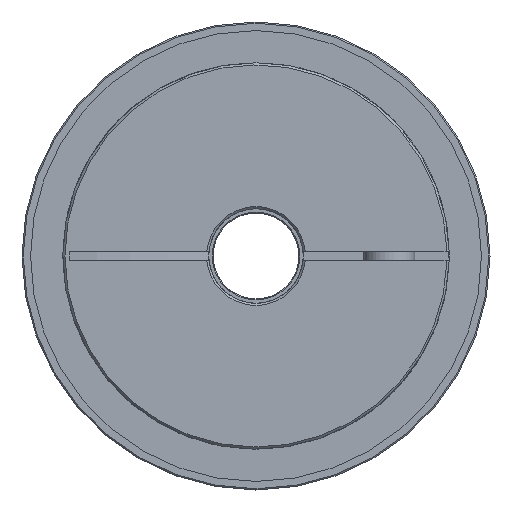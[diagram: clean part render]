
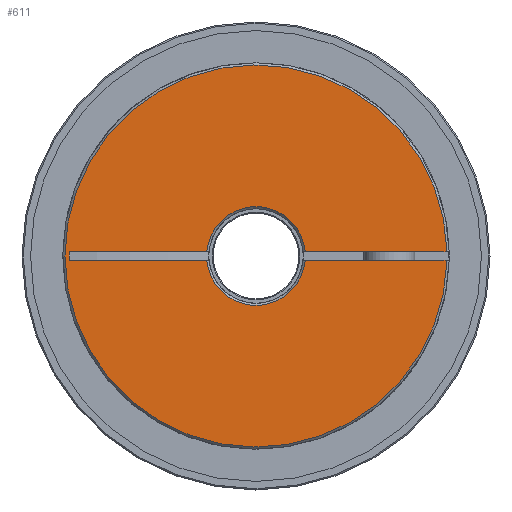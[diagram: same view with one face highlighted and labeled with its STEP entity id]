
A CAD part, left-side view. The second image highlights one B-rep face of the part: STEP entity #611.
In plain terms, the highlighted planar face has unit normal (-1, 0, 0).
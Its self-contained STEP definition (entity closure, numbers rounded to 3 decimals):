
#611 = ADVANCED_FACE( 'NONE', ( #1289 ), #1290, .F. );
#1289 = FACE_OUTER_BOUND( '', #2190, .T. );
#1290 = PLANE( '', #2191 );
#2190 = EDGE_LOOP( '', ( #3296, #3297, #3298, #3299, #3300, #3301, #3302, #3303 ) );
#2191 = AXIS2_PLACEMENT_3D( '', #3304, #3305, #3306 );
#3296 = ORIENTED_EDGE( '', *, *, #4658, .T. );
#3297 = ORIENTED_EDGE( '', *, *, #4659, .T. );
#3298 = ORIENTED_EDGE( '', *, *, #4660, .T. );
#3299 = ORIENTED_EDGE( '', *, *, #4661, .T. );
#3300 = ORIENTED_EDGE( '', *, *, #4662, .F. );
#3301 = ORIENTED_EDGE( '', *, *, #4663, .T. );
#3302 = ORIENTED_EDGE( '', *, *, #4664, .F. );
#3303 = ORIENTED_EDGE( '', *, *, #4665, .T. );
#3304 = CARTESIAN_POINT( '', ( 0., 11., 0. ) );
#3305 = DIRECTION( '', ( 1., 0., 0. ) );
#3306 = DIRECTION( '', ( 0., 1., 0. ) );
#4658 = EDGE_CURVE( 'NONE', #5400, #5401, #5402, .T. );
#4659 = EDGE_CURVE( 'NONE', #5401, #5403, #5404, .T. );
#4660 = EDGE_CURVE( 'NONE', #5403, #5405, #5406, .T. );
#4661 = EDGE_CURVE( 'NONE', #5405, #5407, #5408, .F. );
#4662 = EDGE_CURVE( 'NONE', #5409, #5407, #5410, .F. );
#4663 = EDGE_CURVE( 'NONE', #5409, #5411, #5412, .T. );
#4664 = EDGE_CURVE( 'NONE', #5413, #5411, #5414, .F. );
#4665 = EDGE_CURVE( 'NONE', #5413, #5400, #5415, .T. );
#5400 = VERTEX_POINT( 'NONE', #6667 );
#5401 = VERTEX_POINT( 'NONE', #6668 );
#5402 = LINE( '', #6669, #6670 );
#5403 = VERTEX_POINT( 'NONE', #6671 );
#5404 = CIRCLE( '', #6672, 11.5 );
#5405 = VERTEX_POINT( 'NONE', #6673 );
#5406 = LINE( '', #6674, #6675 );
#5407 = VERTEX_POINT( 'NONE', #6676 );
#5408 = CIRCLE( '', #6677, 44.5 );
#5409 = VERTEX_POINT( 'NONE', #6678 );
#5410 = LINE( '', #6679, #6680 );
#5411 = VERTEX_POINT( 'NONE', #6681 );
#5412 = CIRCLE( '', #6682, 11.5 );
#5413 = VERTEX_POINT( 'NONE', #6683 );
#5414 = LINE( '', #6684, #6685 );
#5415 = LINE( '', #6686, #6687 );
#6667 = CARTESIAN_POINT( '', ( 0., 43.508, 1. ) );
#6668 = CARTESIAN_POINT( '', ( 0., 11.456, 1. ) );
#6669 = CARTESIAN_POINT( '', ( 0., 11., 1. ) );
#6670 = VECTOR( '', #7754, 1000. );
#6671 = CARTESIAN_POINT( '', ( 0., -11.456, 1. ) );
#6672 = AXIS2_PLACEMENT_3D( '', #7755, #7756, #7757 );
#6673 = CARTESIAN_POINT( '', ( 0., -44.489, 1. ) );
#6674 = CARTESIAN_POINT( '', ( 0., 11., 1. ) );
#6675 = VECTOR( '', #7758, 1000. );
#6676 = CARTESIAN_POINT( '', ( 0., -44.489, -1. ) );
#6677 = AXIS2_PLACEMENT_3D( '', #7759, #7760, #7761 );
#6678 = CARTESIAN_POINT( '', ( 0., -11.456, -1. ) );
#6679 = CARTESIAN_POINT( '', ( 0., -9., -1. ) );
#6680 = VECTOR( '', #7762, 1000. );
#6681 = CARTESIAN_POINT( '', ( 0., 11.456, -1. ) );
#6682 = AXIS2_PLACEMENT_3D( '', #7763, #7764, #7765 );
#6683 = CARTESIAN_POINT( '', ( 0., 43.508, -1. ) );
#6684 = CARTESIAN_POINT( '', ( 0., -9., -1. ) );
#6685 = VECTOR( '', #7766, 1000. );
#6686 = CARTESIAN_POINT( '', ( 0., 43.508, -1. ) );
#6687 = VECTOR( '', #7767, 1000. );
#7754 = DIRECTION( '', ( 0., -1., 0. ) );
#7755 = CARTESIAN_POINT( '', ( 0., 0., 0. ) );
#7756 = DIRECTION( '', ( 1., 0., 0. ) );
#7757 = DIRECTION( '', ( 0., 0., -1. ) );
#7758 = DIRECTION( '', ( 0., -1., 0. ) );
#7759 = CARTESIAN_POINT( '', ( 0., 0., 0. ) );
#7760 = DIRECTION( '', ( 1., 0., 0. ) );
#7761 = DIRECTION( '', ( 0., 0., -1. ) );
#7762 = DIRECTION( '', ( 0., 1., 0. ) );
#7763 = CARTESIAN_POINT( '', ( 0., 0., 0. ) );
#7764 = DIRECTION( '', ( 1., 0., 0. ) );
#7765 = DIRECTION( '', ( 0., 0., -1. ) );
#7766 = DIRECTION( '', ( 0., 1., 0. ) );
#7767 = DIRECTION( '', ( 0., 0., 1. ) );
